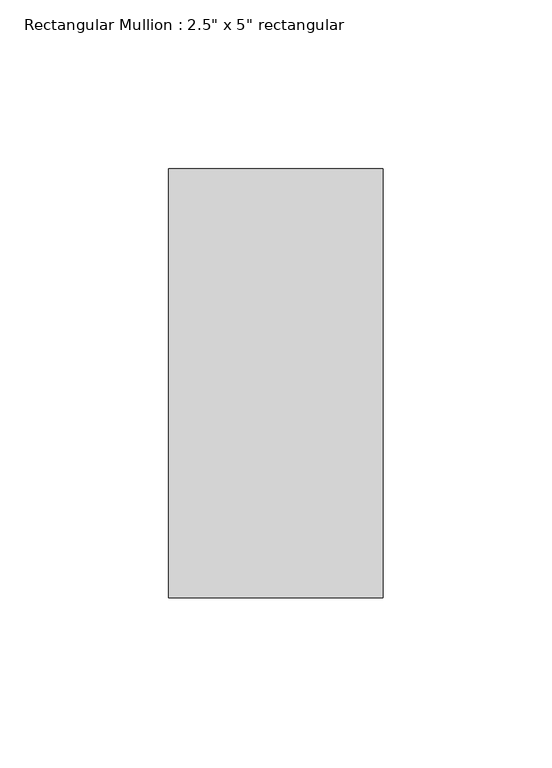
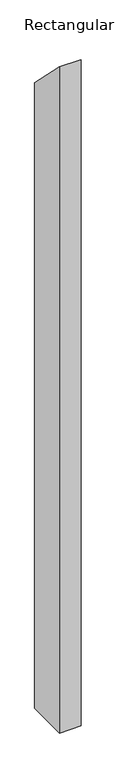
"""IFC4 building model written with IfcOpenShell, lengths in millimetres: member geometry."""

import ifcopenshell
import ifcopenshell.guid

model = None  # the IFC model being written
_history = None  # IfcOwnerHistory: only IFC2X3 demands one
_inside = {}  # id of a spatial element -> (the spatial element, [elements in it])
_under = {}  # id of a project, library or spatial element -> (it, [spatial elements below it])
_declared = {}  # id of a project -> (the project, [libraries it declares])
_typed = {}  # id of a type object -> (the type object, [elements of that type])
_made_of = {}  # id of a material, layer set ... -> (it, [elements and type objects made of it])


def new_model(schema):
    """Start an empty IFC model of exactly this schema.

    Asked for "IFC4X3", IfcOpenShell would pick the latest addendum, in which some entities
    have other attributes; the version numbers below select the first issue.
    IFC2X3 requires an IfcOwnerHistory on every rooted entity: one is made here for all.
    """
    global model, _history
    if schema == "IFC4X3":
        model = ifcopenshell.file(schema_version=(4, 3, 0, 0))
    else:
        model = ifcopenshell.file(schema=schema)
    _inside.clear()
    _under.clear()
    _declared.clear()
    _typed.clear()
    _made_of.clear()
    _history = None
    if model.schema == "IFC2X3":
        org = make("IfcOrganization", Name="unknown")
        user = make(
            "IfcPersonAndOrganization",
            ThePerson=make("IfcPerson", FamilyName="unknown"),
            TheOrganization=org,
        )
        app = make(
            "IfcApplication",
            ApplicationDeveloper=org,
            Version="unknown",
            ApplicationFullName="unknown",
            ApplicationIdentifier="unknown",
        )
        _history = make(
            "IfcOwnerHistory",
            OwningUser=user,
            OwningApplication=app,
            ChangeAction="ADDED",
            CreationDate=0,
        )
    return model


def make(cls, **values):
    """One entity of the class cls with the attributes given. An attribute that is None is left unset."""
    return model.create_entity(
        cls, **{name: value for name, value in values.items() if value is not None}
    )


def rooted(cls, **values):
    """An entity with a GlobalId (a new one), such as an element, a storey or a relation."""
    return make(cls, GlobalId=ifcopenshell.guid.new(), OwnerHistory=_history, **values)


def si_unit(unit_type, name, prefix=None):
    """IfcSIUnit, for example si_unit("LENGTHUNIT", "METRE", prefix="MILLI")."""
    return make("IfcSIUnit", UnitType=unit_type, Prefix=prefix, Name=name)


def assignment(units):
    """IfcUnitAssignment: the units of a project."""
    return None if units is None else make("IfcUnitAssignment", Units=units)


def point(xyz):
    """IfcCartesianPoint."""
    return None if xyz is None else make("IfcCartesianPoint", Coordinates=xyz)


def direction(xyz):
    """IfcDirection."""
    return None if xyz is None else make("IfcDirection", DirectionRatios=xyz)


def frame(location, z_axis=None, x_axis=None):
    """IfcAxis2Placement3D, a coordinate frame: its origin and axes. An axis left out is left unset."""
    return make(
        "IfcAxis2Placement3D",
        Location=point(location),
        Axis=direction(z_axis),
        RefDirection=direction(x_axis),
    )


def origin():
    """The frame at (0, 0, 0) with its axes left unset."""
    return frame((0.0, 0.0, 0.0))


def place(relative_to, where):
    """IfcLocalPlacement: puts the frame where relative to a parent placement (None: the world)."""
    return make(
        "IfcLocalPlacement", PlacementRelTo=relative_to, RelativePlacement=where
    )


def context(
    kind, dimensions, precision=None, world=None, true_north=None, identifier=None
):
    """IfcGeometricRepresentationContext, for example the 3D "Model" context."""
    return make(
        "IfcGeometricRepresentationContext",
        ContextIdentifier=identifier,
        ContextType=kind,
        CoordinateSpaceDimension=dimensions,
        Precision=precision,
        WorldCoordinateSystem=world,
        TrueNorth=true_north,
    )


def project(units=None, contexts=None):
    """IfcProject with its units and contexts."""
    return rooted(
        "IfcProject",
        Name="project",
        RepresentationContexts=contexts,
        UnitsInContext=assignment(units),
    )


def spatial(cls, under=None, at=None, **own):
    """A site, building, storey or space (cls), placed at a placement, below another one or the project."""
    s = rooted(cls, ObjectPlacement=at, **own)
    if under is not None:
        _under.setdefault(under.id(), (under, []))[1].append(s)
    return s


def polyline(points):
    """IfcPolyline through the points."""
    return make("IfcPolyline", Points=[point(p) for p in points])


def outline(outer, holes=None, kind="AREA"):
    """IfcArbitraryClosedProfileDef: a profile drawn as a closed curve; with holes, ...WithVoids."""
    if holes is None:
        return make("IfcArbitraryClosedProfileDef", ProfileType=kind, OuterCurve=outer)
    return make(
        "IfcArbitraryProfileDefWithVoids",
        ProfileType=kind,
        OuterCurve=outer,
        InnerCurves=holes,
    )


def extrude(swept, where, along, depth):
    """IfcExtrudedAreaSolid: the profile swept, set in the frame where, extruded along a direction by depth."""
    return make(
        "IfcExtrudedAreaSolid",
        SweptArea=swept,
        Position=where,
        ExtrudedDirection=direction(along),
        Depth=depth,
    )


def shape(context_of_items, identifier, shape_type, items):
    """IfcShapeRepresentation: the items that make up one representation, for example the "Body"."""
    return make(
        "IfcShapeRepresentation",
        ContextOfItems=context_of_items,
        RepresentationIdentifier=identifier,
        RepresentationType=shape_type,
        Items=items,
    )


def source(mapping_origin, context_of_items, identifier, shape_type, items):
    """IfcRepresentationMap: a shape defined once, which mapped items show again and again."""
    return make(
        "IfcRepresentationMap",
        MappingOrigin=mapping_origin,
        MappedRepresentation=shape(context_of_items, identifier, shape_type, items),
    )


def transform(
    local_origin,
    x_axis=None,
    y_axis=None,
    z_axis=None,
    scale=None,
    scale2=None,
    scale3=None,
    uniform=True,
):
    """IfcCartesianTransformationOperator3D, or its non-uniform kind. x_axis, y_axis, z_axis: its Axis1, 2, 3."""
    if uniform:
        return make(
            "IfcCartesianTransformationOperator3D",
            Axis1=direction(x_axis),
            Axis2=direction(y_axis),
            LocalOrigin=point(local_origin),
            Scale=scale,
            Axis3=direction(z_axis),
        )
    return make(
        "IfcCartesianTransformationOperator3DnonUniform",
        Axis1=direction(x_axis),
        Axis2=direction(y_axis),
        LocalOrigin=point(local_origin),
        Scale=scale,
        Axis3=direction(z_axis),
        Scale2=scale2,
        Scale3=scale3,
    )


def mapped(mapping_source, mapping_target):
    """IfcMappedItem: shows the shape of a source again, moved by a transform."""
    return make(
        "IfcMappedItem", MappingSource=mapping_source, MappingTarget=mapping_target
    )


def made_of(thing, what):
    """Note that an element or type object is made of a material, layer set ...; save() writes the relation."""
    if what is not None:
        _made_of.setdefault(what.id(), (what, []))[1].append(thing)
    return thing


def element(
    cls,
    number,
    at=None,
    inside=None,
    cuts=None,
    type_object=None,
    material=None,
    context=None,
    identifier="Body",
    shape_type=None,
    held_by="IfcProductDefinitionShape",
    body=None,
    shapes=None,
    **own,
):
    """One element of the class cls, such as IfcWall. Its Tag is "e" and its number.

    at: its placement. inside: the storey or other place that contains it. cuts: it is an
    opening in that element (IfcRelVoidsElement). A single representation is given by context,
    identifier, shape_type and body (its items); several are given by shapes. held_by: the class
    of the entity that holds the representations. save() writes the other relations.
    """
    e = rooted(cls, Tag="e%d" % number, ObjectPlacement=at, **own)
    if body is not None:
        shapes = [shape(context, identifier, shape_type, body)]
    if shapes is not None:
        e.Representation = make(held_by, Representations=shapes)
    if inside is not None:
        _inside.setdefault(inside.id(), (inside, []))[1].append(e)
    if cuts is not None:
        rooted(
            "IfcRelVoidsElement", RelatingBuildingElement=cuts, RelatedOpeningElement=e
        )
    if type_object is not None:
        _typed.setdefault(type_object.id(), (type_object, []))[1].append(e)
    return made_of(e, material)


def aggregate(whole, parts):
    """IfcRelAggregates: a whole, such as a stair, and the parts it consists of."""
    return rooted("IfcRelAggregates", RelatingObject=whole, RelatedObjects=parts)


def save(model, path):
    """Write the relations noted so far, then the file.

    IfcRelAggregates (storeys below a building ...), IfcRelContainedInSpatialStructure (elements
    in a storey), IfcRelDefinesByType, IfcRelAssociatesMaterial and IfcRelDeclares: one each for
    every whole, place, type object, material and project.
    """
    for whole, parts in _under.values():
        aggregate(whole, parts)
    for where, things in _inside.values():
        rooted(
            "IfcRelContainedInSpatialStructure",
            RelatedElements=things,
            RelatingStructure=where,
        )
    for kind, things in _typed.values():
        rooted("IfcRelDefinesByType", RelatedObjects=things, RelatingType=kind)
    for what, things in _made_of.values():
        rooted("IfcRelAssociatesMaterial", RelatedObjects=things, RelatingMaterial=what)
    for by, libraries in _declared.values():
        rooted("IfcRelDeclares", RelatingContext=by, RelatedDefinitions=libraries)
    model.write(path)


def member_d151811f(model_context):
    return source(origin(), model_context, "Body", "SweptSolid", [
        extrude(outline(polyline([(-76.2, 76.2), (50.8, -50.8), (50.8, -2003.425), (-76.2, -2003.425), (-76.2, 76.2)])), frame((-63.5, 0.0, 0.0), z_axis=(1.0, 0.0, 0.0), x_axis=(0.0, 1.0, 0.0)), (0.0, 0.0, 1.0), 63.5),
    ])


if __name__ == "__main__":
    model = new_model("IFC4")
    model_context = context("Model", 3, world=origin())
    ifc_project = project(units=[si_unit("LENGTHUNIT", "METRE", prefix="MILLI")], contexts=[model_context])
    site = spatial("IfcSite", under=ifc_project)
    building = spatial("IfcBuilding", under=site)
    placement = place(None, origin())
    member_shape = member_d151811f(model_context)
    element("IfcMember", 1, ObjectType="Rectangular Mullion : 2.5\" x 5\" rectangular", at=placement, inside=building, context=model_context, shape_type="MappedRepresentation", body=[
        mapped(member_shape, transform((0.0, 0.0, 0.0), x_axis=(1.0, 0.0, 0.0), y_axis=(0.0, 1.0, 0.0), z_axis=(0.0, 0.0, 1.0))),
    ])
    save(model, "model.ifc")
